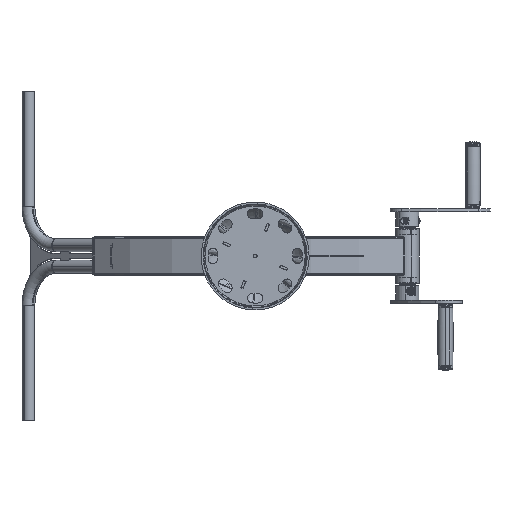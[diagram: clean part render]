
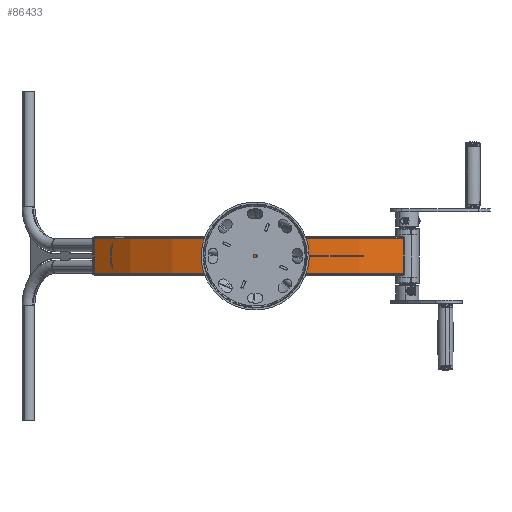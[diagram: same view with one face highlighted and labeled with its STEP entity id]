
A CAD part, front view. The second image highlights one B-rep face of the part: STEP entity #86433.
In plain terms, the highlighted cylindrical face has radius 775 mm (diameter 1550 mm), a partial arc.
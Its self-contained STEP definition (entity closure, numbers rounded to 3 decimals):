
#220 = AXIS2_PLACEMENT_3D ( 'NONE', #99555, #89359, #12912 ) ;
#5838 = LINE ( 'NONE', #83549, #14088 ) ;
#12466 = DIRECTION ( 'NONE',  ( 0., 0., -1. ) ) ;
#12912 = DIRECTION ( 'NONE',  ( -1., 0., 0. ) ) ;
#14088 = VECTOR ( 'NONE', #65088, 1000. ) ;
#20925 = ORIENTED_EDGE ( 'NONE', *, *, #21042, .T. ) ;
#21042 = EDGE_CURVE ( 'NONE', #35096, #125702, #61284, .T. ) ;
#22341 = DIRECTION ( 'NONE',  ( 0., 0., -1. ) ) ;
#27610 = ORIENTED_EDGE ( 'NONE', *, *, #57167, .F. ) ;
#28631 = CARTESIAN_POINT ( 'NONE',  ( 428.516, 645.755, 45. ) ) ;
#31891 = CYLINDRICAL_SURFACE ( 'NONE', #62009, 775. ) ;
#31920 = CARTESIAN_POINT ( 'NONE',  ( 428.516, 645.755, -45. ) ) ;
#35096 = VERTEX_POINT ( 'NONE', #92667 ) ;
#41144 = CARTESIAN_POINT ( 'NONE',  ( -399.155, 664.305, -216.752 ) ) ;
#54123 = CIRCLE ( 'NONE', #84541, 775. ) ;
#56547 = VECTOR ( 'NONE', #12466, 1000. ) ;
#57167 = EDGE_CURVE ( 'NONE', #88095, #125702, #5838, .T. ) ;
#58438 = EDGE_CURVE ( 'NONE', #35096, #81269, #81244, .T. ) ;
#61203 = DIRECTION ( 'NONE',  ( -1., 0., 0. ) ) ;
#61284 = CIRCLE ( 'NONE', #220, 775. ) ;
#62009 = AXIS2_PLACEMENT_3D ( 'NONE', #109579, #22341, #61203 ) ;
#65088 = DIRECTION ( 'NONE',  ( 0., 0., 1. ) ) ;
#70637 = ORIENTED_EDGE ( 'NONE', *, *, #58438, .F. ) ;
#80280 = FACE_OUTER_BOUND ( 'NONE', #94754, .T. ) ;
#80870 = CARTESIAN_POINT ( 'NONE',  ( -399.155, 664.305, -45. ) ) ;
#81244 = LINE ( 'NONE', #41144, #56547 ) ;
#81269 = VERTEX_POINT ( 'NONE', #80870 ) ;
#83549 = CARTESIAN_POINT ( 'NONE',  ( 428.516, 645.755, 0. ) ) ;
#84541 = AXIS2_PLACEMENT_3D ( 'NONE', #119922, #102674, #119285 ) ;
#86433 = ADVANCED_FACE ( 'NONE', ( #80280 ), #31891, .T. ) ;
#88095 = VERTEX_POINT ( 'NONE', #31920 ) ;
#89359 = DIRECTION ( 'NONE',  ( 0., 0., -1. ) ) ;
#92667 = CARTESIAN_POINT ( 'NONE',  ( -399.155, 664.305, 45. ) ) ;
#94754 = EDGE_LOOP ( 'NONE', ( #27610, #115093, #70637, #20925 ) ) ;
#99555 = CARTESIAN_POINT ( 'NONE',  ( 0., 0., 45. ) ) ;
#102674 = DIRECTION ( 'NONE',  ( 0., 0., -1. ) ) ;
#109579 = CARTESIAN_POINT ( 'NONE',  ( 0., 0., -216.752 ) ) ;
#115093 = ORIENTED_EDGE ( 'NONE', *, *, #122314, .F. ) ;
#119285 = DIRECTION ( 'NONE',  ( -1., 0., 0. ) ) ;
#119922 = CARTESIAN_POINT ( 'NONE',  ( 0., 0., -45. ) ) ;
#122314 = EDGE_CURVE ( 'NONE', #81269, #88095, #54123, .T. ) ;
#125702 = VERTEX_POINT ( 'NONE', #28631 ) ;
